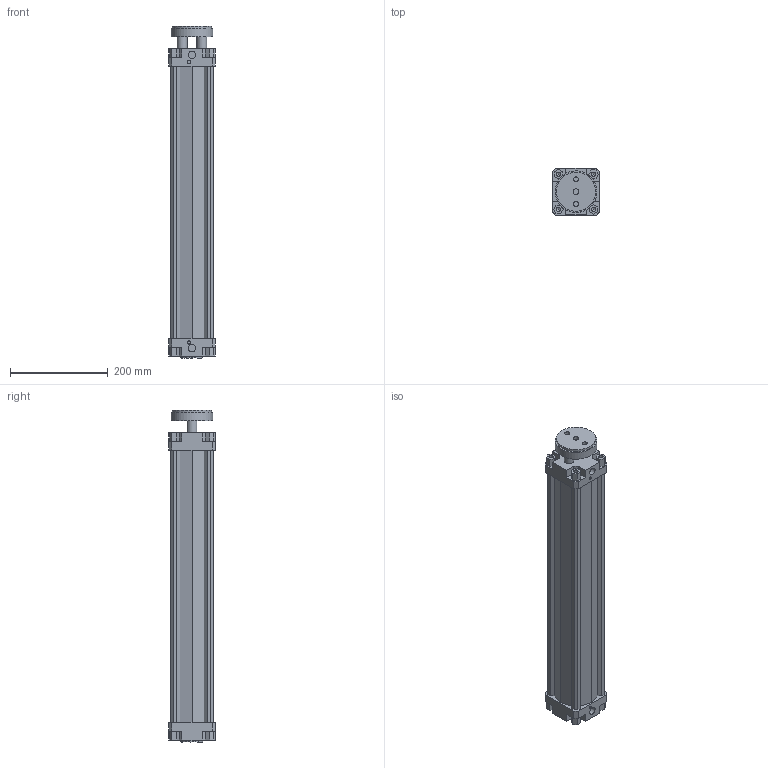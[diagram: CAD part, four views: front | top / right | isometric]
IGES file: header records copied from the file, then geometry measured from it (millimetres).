
Global section: file name: 132#_080_0500_01; native system: Autodesk Inventor 2014; preprocessor: unknown; author: A. Manieri; date: 20161006.162524; units: millimetre
Bounding box: 95 x 95 x 678 mm (x, y, z)
Volume: 2343929.8 mm3; surface area: 529818.9 mm2
Topology: 2 solids, 2 shells, 180 faces, 491 edges, 335 vertices
Faces by surface type: bspline 180
